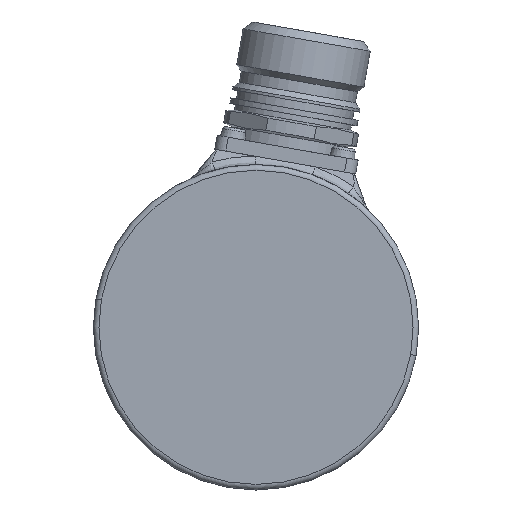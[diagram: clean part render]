
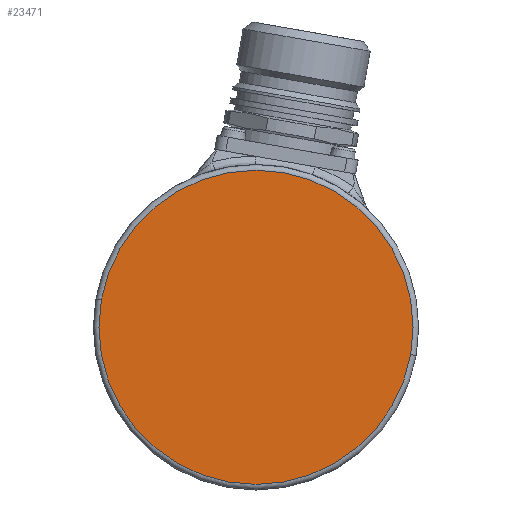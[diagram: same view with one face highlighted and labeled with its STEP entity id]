
A CAD part, left-side view. The second image highlights one B-rep face of the part: STEP entity #23471.
In plain terms, the highlighted planar face has unit normal (-1, 0, 0).
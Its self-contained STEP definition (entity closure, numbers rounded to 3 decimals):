
#13950 = CARTESIAN_POINT ( 'NONE',  ( -40., 27.575, 4.862 ) ) ;
#13951 = CARTESIAN_POINT ( 'NONE',  ( -40., -27.575, -4.862 ) ) ;
#13952 = DIRECTION ( 'NONE',  ( 0., 0.985, 0.174 ) ) ;
#13953 = DIRECTION ( 'NONE',  ( -1., 0., 0. ) ) ;
#13954 = CARTESIAN_POINT ( 'NONE',  ( -40., 0., 0. ) ) ;
#13955 = AXIS2_PLACEMENT_3D ( 'NONE', #13954, #13953, #13952 ) ;
#13956 = CIRCLE ( 'NONE', #13955, 28. ) ;
#14176 = DIRECTION ( 'NONE',  ( 0., 0.985, 0.174 ) ) ;
#14177 = DIRECTION ( 'NONE',  ( -1., 0., 0. ) ) ;
#14178 = CARTESIAN_POINT ( 'NONE',  ( -40., 0., 0. ) ) ;
#14179 = AXIS2_PLACEMENT_3D ( 'NONE', #14178, #14177, #14176 ) ;
#14180 = CIRCLE ( 'NONE', #14179, 28. ) ;
#14257 = FACE_OUTER_BOUND ( 'NONE', #23461, .T. ) ;
#14279 = DIRECTION ( 'NONE',  ( 0., 0.985, 0.174 ) ) ;
#14280 = DIRECTION ( 'NONE',  ( 1., 0., 0. ) ) ;
#14281 = CARTESIAN_POINT ( 'NONE',  ( -40., 0., 0. ) ) ;
#14282 = AXIS2_PLACEMENT_3D ( 'NONE', #14281, #14280, #14279 ) ;
#14285 = PLANE ( 'NONE',  #14282 ) ;
#23398 = EDGE_CURVE ( 'NONE', #23399, #23400, #13956, .T. ) ;
#23399 = VERTEX_POINT ( 'NONE', #13951 ) ;
#23400 = VERTEX_POINT ( 'NONE', #13950 ) ;
#23461 = EDGE_LOOP ( 'NONE', ( #23462, #23473 ) ) ;
#23462 = ORIENTED_EDGE ( 'NONE', *, *, #23463, .T. ) ;
#23463 = EDGE_CURVE ( 'NONE', #23400, #23399, #14180, .T. ) ;
#23471 = ADVANCED_FACE ( 'NONE', ( #14257 ), #14285, .F. ) ;
#23473 = ORIENTED_EDGE ( 'NONE', *, *, #23398, .T. ) ;
